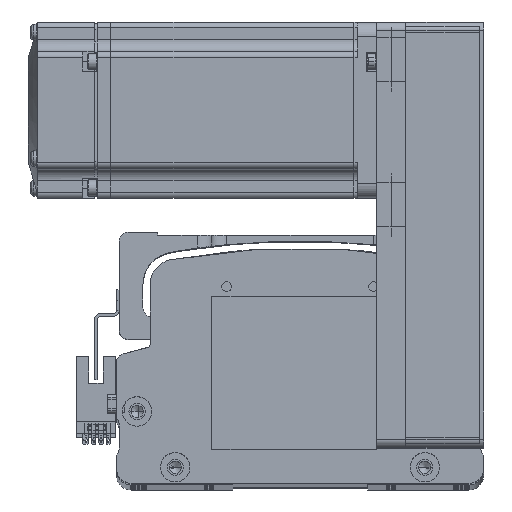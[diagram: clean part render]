
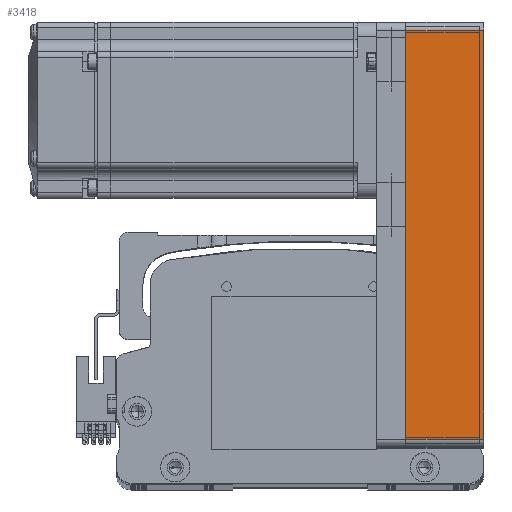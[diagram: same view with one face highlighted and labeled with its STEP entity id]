
A CAD part, top view. The second image highlights one B-rep face of the part: STEP entity #3418.
In plain terms, the highlighted planar face has unit normal (0, 0, 1) as drawn and (0, 1, 0) by its records, which use the part's own axes.
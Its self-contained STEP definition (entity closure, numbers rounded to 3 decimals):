
#159 = VERTEX_POINT ( 'NONE', #4959 ) ;
#2912 = CARTESIAN_POINT ( 'NONE',  ( 72.5, 30., 26.5 ) ) ;
#3418 = ADVANCED_FACE ( 'NONE', ( #56058 ), #14707, .F. ) ;
#4953 = DIRECTION ( 'NONE',  ( -1., 0., 0. ) ) ;
#4959 = CARTESIAN_POINT ( 'NONE',  ( -69.5, 30., 26.5 ) ) ;
#5747 = DIRECTION ( 'NONE',  ( 0., 0., -1. ) ) ;
#6161 = EDGE_CURVE ( 'NONE', #13329, #64026, #38346, .T. ) ;
#7330 = VECTOR ( 'NONE', #4953, 1000. ) ;
#12510 = VECTOR ( 'NONE', #22808, 1000. ) ;
#13329 = VERTEX_POINT ( 'NONE', #27459 ) ;
#13700 = ORIENTED_EDGE ( 'NONE', *, *, #39472, .T. ) ;
#14707 = PLANE ( 'NONE',  #72729 ) ;
#18175 = ORIENTED_EDGE ( 'NONE', *, *, #33774, .T. ) ;
#22808 = DIRECTION ( 'NONE',  ( -1., 0., 0. ) ) ;
#27459 = CARTESIAN_POINT ( 'NONE',  ( 69.5, 30., 26.5 ) ) ;
#27995 = CARTESIAN_POINT ( 'NONE',  ( 72.5, 30., 26.5 ) ) ;
#29557 = CARTESIAN_POINT ( 'NONE',  ( -69.5, 30., 0. ) ) ;
#29779 = LINE ( 'NONE', #2912, #12510 ) ;
#30823 = VECTOR ( 'NONE', #46365, 1000. ) ;
#31614 = CARTESIAN_POINT ( 'NONE',  ( 69.5, 30., 26.5 ) ) ;
#33774 = EDGE_CURVE ( 'NONE', #64026, #63724, #74433, .T. ) ;
#34594 = DIRECTION ( 'NONE',  ( 1., 0., 0. ) ) ;
#35496 = VECTOR ( 'NONE', #5747, 1000. ) ;
#37617 = CARTESIAN_POINT ( 'NONE',  ( 72.5, 30., 0. ) ) ;
#37685 = ORIENTED_EDGE ( 'NONE', *, *, #39706, .F. ) ;
#38346 = LINE ( 'NONE', #31614, #35496 ) ;
#39472 = EDGE_CURVE ( 'NONE', #63724, #159, #65362, .T. ) ;
#39706 = EDGE_CURVE ( 'NONE', #13329, #159, #29779, .T. ) ;
#44222 = EDGE_LOOP ( 'NONE', ( #18175, #13700, #37685, #47522 ) ) ;
#46365 = DIRECTION ( 'NONE',  ( 0., 0., 1. ) ) ;
#47522 = ORIENTED_EDGE ( 'NONE', *, *, #6161, .T. ) ;
#56058 = FACE_OUTER_BOUND ( 'NONE', #44222, .T. ) ;
#63724 = VERTEX_POINT ( 'NONE', #29557 ) ;
#64026 = VERTEX_POINT ( 'NONE', #71799 ) ;
#65362 = LINE ( 'NONE', #78762, #30823 ) ;
#71799 = CARTESIAN_POINT ( 'NONE',  ( 69.5, 30., 0. ) ) ;
#72729 = AXIS2_PLACEMENT_3D ( 'NONE', #27995, #73438, #34594 ) ;
#73438 = DIRECTION ( 'NONE',  ( 0., -1., 0. ) ) ;
#74433 = LINE ( 'NONE', #37617, #7330 ) ;
#78762 = CARTESIAN_POINT ( 'NONE',  ( -69.5, 30., 26.5 ) ) ;
